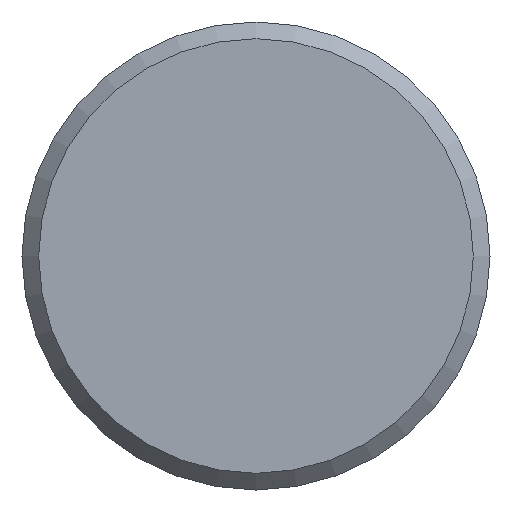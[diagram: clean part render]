
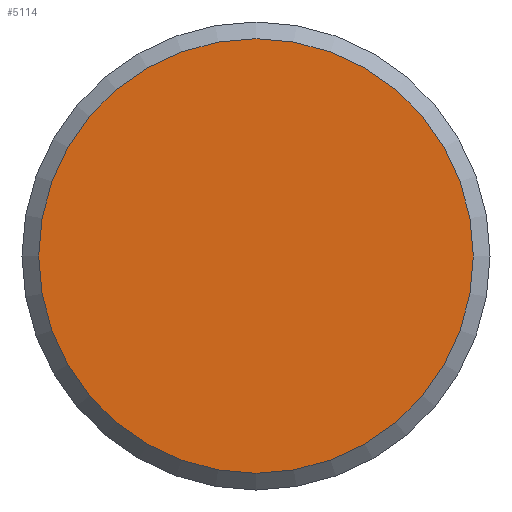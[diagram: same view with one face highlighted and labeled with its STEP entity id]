
A CAD part, left-side view. The second image highlights one B-rep face of the part: STEP entity #5114.
In plain terms, the highlighted planar face has unit normal (-1, 0, 0).
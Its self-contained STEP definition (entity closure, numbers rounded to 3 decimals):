
#1836=PLANE('',#4705);
#1902=ORIENTED_EDGE('',*,*,#2596,.F.);
#2248=CIRCLE('',#4704,6.5);
#2422=VERTEX_POINT('',#4178);
#2596=EDGE_CURVE('',#2422,#2422,#2248,.T.);
#2772=EDGE_LOOP('',(#1902));
#3120=FACE_BOUND('',#2772,.T.);
#3472=DIRECTION('',(1.,0.,0.));
#3473=DIRECTION('',(0.,-6.5,0.));
#3474=DIRECTION('',(-1.,0.,0.));
#3475=DIRECTION('',(0.,1.,0.));
#4178=CARTESIAN_POINT('',(21.318,156.136,0.));
#4179=CARTESIAN_POINT('',(21.318,162.636,0.));
#4180=CARTESIAN_POINT('',(21.318,162.636,0.));
#4704=AXIS2_PLACEMENT_3D('',#4179,#3472,#3473);
#4705=AXIS2_PLACEMENT_3D('',#4180,#3474,#3475);
#5114=ADVANCED_FACE('',(#3120),#1836,.T.);
